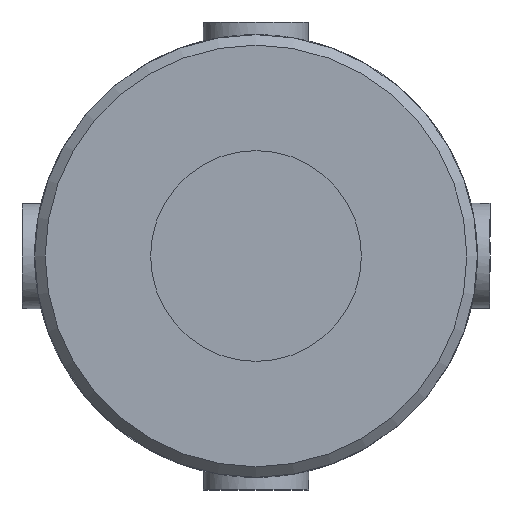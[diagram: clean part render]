
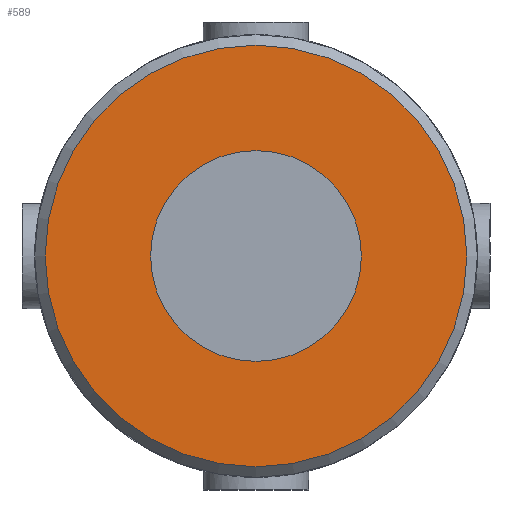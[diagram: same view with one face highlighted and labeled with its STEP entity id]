
A CAD part, front view. The second image highlights one B-rep face of the part: STEP entity #589.
In plain terms, the highlighted planar face has unit normal (0, -1, 0).
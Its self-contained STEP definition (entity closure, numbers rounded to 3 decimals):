
#121=PLANE('',#644);
#145=FACE_BOUND('',#221,.T.);
#168=FACE_OUTER_BOUND('',#220,.T.);
#220=EDGE_LOOP('',(#468));
#221=EDGE_LOOP('',(#469));
#257=CIRCLE('',#639,10.);
#259=CIRCLE('',#642,20.);
#292=VERTEX_POINT('',#908);
#294=VERTEX_POINT('',#913);
#354=EDGE_CURVE('',#292,#292,#257,.T.);
#356=EDGE_CURVE('',#294,#294,#259,.T.);
#468=ORIENTED_EDGE('',*,*,#356,.F.);
#469=ORIENTED_EDGE('',*,*,#354,.T.);
#589=ADVANCED_FACE('',(#168,#145),#121,.F.);
#639=AXIS2_PLACEMENT_3D('',#909,#749,#750);
#642=AXIS2_PLACEMENT_3D('',#914,#755,#756);
#644=AXIS2_PLACEMENT_3D('',#1090,#763,#764);
#749=DIRECTION('center_axis',(0.,1.,0.));
#750=DIRECTION('ref_axis',(-1.,0.,0.));
#755=DIRECTION('center_axis',(0.,1.,0.));
#756=DIRECTION('ref_axis',(1.,0.,0.));
#763=DIRECTION('center_axis',(0.,1.,0.));
#764=DIRECTION('ref_axis',(0.,0.,1.));
#908=CARTESIAN_POINT('',(10.,-51.,0.));
#909=CARTESIAN_POINT('Origin',(0.,-51.,0.));
#913=CARTESIAN_POINT('',(-20.,-51.,0.));
#914=CARTESIAN_POINT('Origin',(0.,-51.,0.));
#1090=CARTESIAN_POINT('Origin',(0.,-51.,0.));
